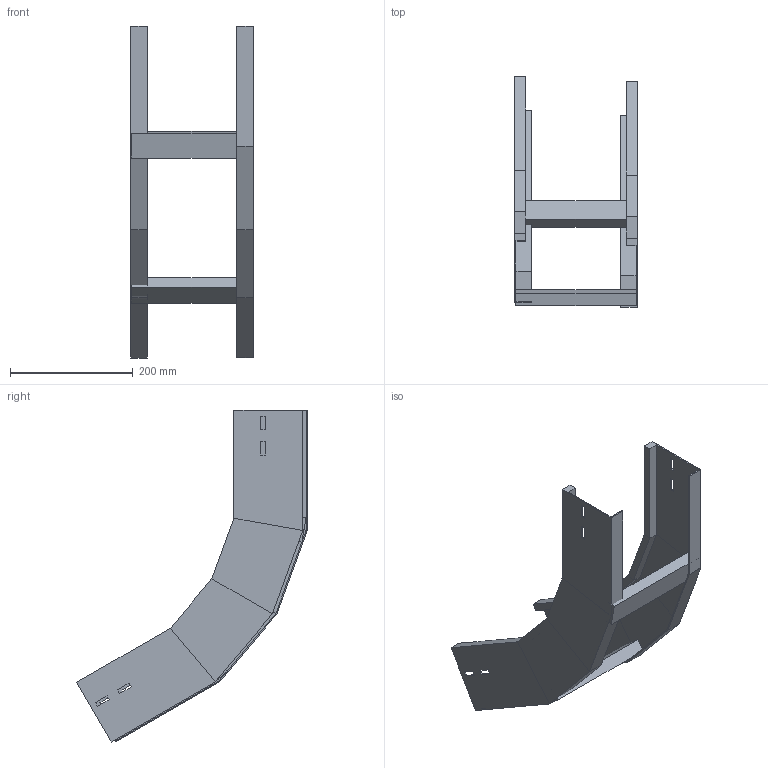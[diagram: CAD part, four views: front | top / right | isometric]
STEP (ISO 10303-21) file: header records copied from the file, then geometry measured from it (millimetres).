
FILE_DESCRIPTION (( 'STEP AP214' ), '1' );
FILE_NAME ('A2X40B3J200XX.step', '2025-04-02T09:55:26', ( '' ), ( '' ), 'SwSTEP 2.0', 'SolidWorks 2023', '' );
FILE_SCHEMA (( 'AUTOMOTIVE_DESIGN' ));
Length unit declared in the file: millimetre
Products named in the file (3): TRAVERSINO_200; A2X40B3J200XX; LONGH.SALITA_60°_H112.5_R300
Assembly tree (4 placements, depth 2):
  A2X40B3J200XX
    LONGH.SALITA_60°_H112.5_R300  x2
    TRAVERSINO_200  x2
Bounding box: 200 x 376.69 x 542.06 mm (x, y, z)
Volume: 882826.1 mm3; surface area: 441257.4 mm2
Topology: 4 solids, 4 shells, 112 faces, 264 edges, 160 vertices
Faces by surface type: plane 112
Entity records: 1664 total; most frequent: CARTESIAN_POINT 275, ORIENTED_EDGE 264, DIRECTION 258, LINE 132, VECTOR 132, EDGE_CURVE 132, VERTEX_POINT 80, EDGE_LOOP 64
